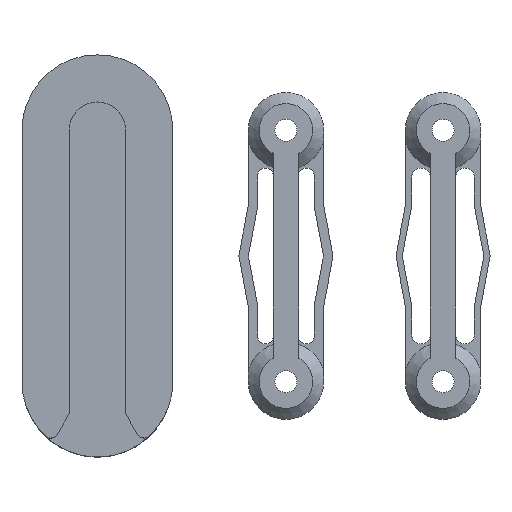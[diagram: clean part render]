
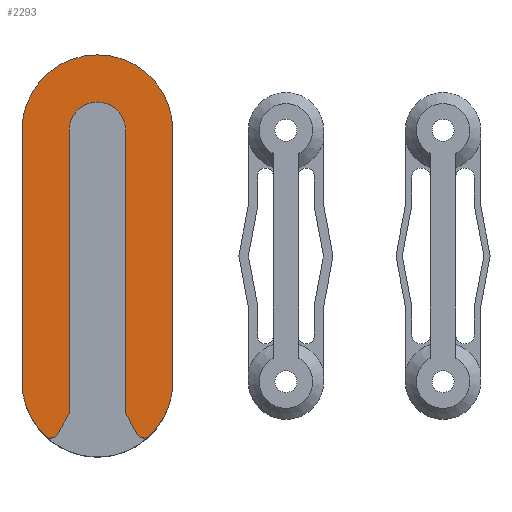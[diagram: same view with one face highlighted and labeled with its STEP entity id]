
A CAD part, top view. The second image highlights one B-rep face of the part: STEP entity #2293.
In plain terms, the highlighted planar face has unit normal (0, 0, 1).
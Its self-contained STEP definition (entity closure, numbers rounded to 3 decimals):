
#18=B_SPLINE_CURVE_WITH_KNOTS('',3,(#3712,#3713,#3714,#3715,#3716,#3717,
#3718,#3719,#3720,#3721,#3722,#3723,#3724),.UNSPECIFIED.,.F.,.F.,(4,3,3,
3,4),(0.,0.048,0.096,0.16,0.224),
 .UNSPECIFIED.);
#21=B_SPLINE_CURVE_WITH_KNOTS('',3,(#3762,#3763,#3764,#3765,#3766,#3767,
#3768,#3769,#3770,#3771,#3772,#3773,#3774),.UNSPECIFIED.,.F.,.F.,(4,3,3,
3,4),(0.,0.064,0.128,0.176,0.224),
 .UNSPECIFIED.);
#101=PLANE('',#2487);
#197=FACE_OUTER_BOUND('',#325,.T.);
#325=EDGE_LOOP('',(#1865,#1866,#1867,#1868,#1869,#1870,#1871,#1872,#1873,
#1874,#1875,#1876));
#502=LINE('',#3661,#720);
#512=LINE('',#3781,#730);
#514=LINE('',#3787,#732);
#515=LINE('',#3791,#733);
#516=LINE('',#3794,#734);
#517=LINE('',#3797,#735);
#720=VECTOR('',#2932,10.);
#730=VECTOR('',#2958,10.);
#732=VECTOR('',#2964,10.);
#733=VECTOR('',#2967,10.);
#734=VECTOR('',#2970,10.);
#735=VECTOR('',#2973,10.);
#881=CIRCLE('',#2488,12.);
#882=CIRCLE('',#2489,12.);
#883=CIRCLE('',#2490,12.);
#884=CIRCLE('',#2491,4.5);
#1053=VERTEX_POINT('',#3658);
#1054=VERTEX_POINT('',#3660);
#1055=VERTEX_POINT('',#3710);
#1056=VERTEX_POINT('',#3711);
#1057=VERTEX_POINT('',#3761);
#1058=VERTEX_POINT('',#3780);
#1059=VERTEX_POINT('',#3784);
#1060=VERTEX_POINT('',#3786);
#1061=VERTEX_POINT('',#3788);
#1062=VERTEX_POINT('',#3790);
#1063=VERTEX_POINT('',#3793);
#1064=VERTEX_POINT('',#3795);
#1332=EDGE_CURVE('',#1053,#1054,#502,.T.);
#1343=EDGE_CURVE('',#1055,#1056,#18,.T.);
#1346=EDGE_CURVE('',#1054,#1057,#21,.T.);
#1348=EDGE_CURVE('',#1056,#1058,#512,.T.);
#1350=EDGE_CURVE('',#1055,#1059,#881,.T.);
#1351=EDGE_CURVE('',#1059,#1060,#514,.T.);
#1352=EDGE_CURVE('',#1060,#1061,#882,.T.);
#1353=EDGE_CURVE('',#1061,#1062,#515,.T.);
#1354=EDGE_CURVE('',#1062,#1057,#883,.T.);
#1355=EDGE_CURVE('',#1053,#1063,#516,.T.);
#1356=EDGE_CURVE('',#1063,#1064,#884,.T.);
#1357=EDGE_CURVE('',#1064,#1058,#517,.T.);
#1865=ORIENTED_EDGE('',*,*,#1343,.F.);
#1866=ORIENTED_EDGE('',*,*,#1350,.T.);
#1867=ORIENTED_EDGE('',*,*,#1351,.T.);
#1868=ORIENTED_EDGE('',*,*,#1352,.T.);
#1869=ORIENTED_EDGE('',*,*,#1353,.T.);
#1870=ORIENTED_EDGE('',*,*,#1354,.T.);
#1871=ORIENTED_EDGE('',*,*,#1346,.F.);
#1872=ORIENTED_EDGE('',*,*,#1332,.F.);
#1873=ORIENTED_EDGE('',*,*,#1355,.T.);
#1874=ORIENTED_EDGE('',*,*,#1356,.T.);
#1875=ORIENTED_EDGE('',*,*,#1357,.T.);
#1876=ORIENTED_EDGE('',*,*,#1348,.F.);
#2293=ADVANCED_FACE('',(#197),#101,.T.);
#2487=AXIS2_PLACEMENT_3D('',#3783,#2960,#2961);
#2488=AXIS2_PLACEMENT_3D('',#3785,#2962,#2963);
#2489=AXIS2_PLACEMENT_3D('',#3789,#2965,#2966);
#2490=AXIS2_PLACEMENT_3D('',#3792,#2968,#2969);
#2491=AXIS2_PLACEMENT_3D('',#3796,#2971,#2972);
#2932=DIRECTION('',(-0.5,-0.866,0.));
#2958=DIRECTION('',(-0.5,0.866,0.));
#2960=DIRECTION('center_axis',(0.,0.,1.));
#2961=DIRECTION('ref_axis',(1.,0.,0.));
#2962=DIRECTION('center_axis',(0.,0.,1.));
#2963=DIRECTION('ref_axis',(1.,0.,0.));
#2964=DIRECTION('',(0.,1.,0.));
#2965=DIRECTION('center_axis',(0.,0.,1.));
#2966=DIRECTION('ref_axis',(1.,0.,0.));
#2967=DIRECTION('',(0.,-1.,0.));
#2968=DIRECTION('center_axis',(0.,0.,1.));
#2969=DIRECTION('ref_axis',(1.,0.,0.));
#2970=DIRECTION('',(0.,1.,0.));
#2971=DIRECTION('center_axis',(0.,0.,-1.));
#2972=DIRECTION('ref_axis',(1.,0.,0.));
#2973=DIRECTION('',(0.,-1.,0.));
#3658=CARTESIAN_POINT('',(1.5,-39.124,3.5));
#3660=CARTESIAN_POINT('',(-0.373,-42.369,3.5));
#3661=CARTESIAN_POINT('',(6.942,-29.698,3.5));
#3710=CARTESIAN_POINT('',(14.323,-42.645,3.5));
#3711=CARTESIAN_POINT('',(12.373,-42.369,3.5));
#3712=CARTESIAN_POINT('Ctrl Pts',(14.323,-42.645,3.5));
#3713=CARTESIAN_POINT('Ctrl Pts',(14.229,-42.735,3.5));
#3714=CARTESIAN_POINT('Ctrl Pts',(14.107,-42.819,3.5));
#3715=CARTESIAN_POINT('Ctrl Pts',(13.96,-42.879,3.5));
#3716=CARTESIAN_POINT('Ctrl Pts',(13.813,-42.939,3.5));
#3717=CARTESIAN_POINT('Ctrl Pts',(13.639,-42.975,3.5));
#3718=CARTESIAN_POINT('Ctrl Pts',(13.462,-42.973,3.5));
#3719=CARTESIAN_POINT('Ctrl Pts',(13.226,-42.971,3.5));
#3720=CARTESIAN_POINT('Ctrl Pts',(12.983,-42.901,3.5));
#3721=CARTESIAN_POINT('Ctrl Pts',(12.792,-42.788,3.5));
#3722=CARTESIAN_POINT('Ctrl Pts',(12.6,-42.675,3.5));
#3723=CARTESIAN_POINT('Ctrl Pts',(12.46,-42.519,3.5));
#3724=CARTESIAN_POINT('Ctrl Pts',(12.373,-42.369,3.5));
#3761=CARTESIAN_POINT('',(-2.323,-42.645,3.5));
#3762=CARTESIAN_POINT('Ctrl Pts',(-0.373,-42.369,
3.5));
#3763=CARTESIAN_POINT('Ctrl Pts',(-0.46,-42.519,
3.5));
#3764=CARTESIAN_POINT('Ctrl Pts',(-0.6,-42.675,3.5));
#3765=CARTESIAN_POINT('Ctrl Pts',(-0.792,-42.788,
3.5));
#3766=CARTESIAN_POINT('Ctrl Pts',(-0.983,-42.901,
3.5));
#3767=CARTESIAN_POINT('Ctrl Pts',(-1.226,-42.971,3.5));
#3768=CARTESIAN_POINT('Ctrl Pts',(-1.462,-42.973,3.5));
#3769=CARTESIAN_POINT('Ctrl Pts',(-1.639,-42.975,3.5));
#3770=CARTESIAN_POINT('Ctrl Pts',(-1.813,-42.939,3.5));
#3771=CARTESIAN_POINT('Ctrl Pts',(-1.96,-42.879,3.5));
#3772=CARTESIAN_POINT('Ctrl Pts',(-2.107,-42.819,3.5));
#3773=CARTESIAN_POINT('Ctrl Pts',(-2.229,-42.735,3.5));
#3774=CARTESIAN_POINT('Ctrl Pts',(-2.323,-42.645,3.5));
#3780=CARTESIAN_POINT('',(10.5,-39.124,3.5));
#3781=CARTESIAN_POINT('',(5.058,-29.698,3.5));
#3783=CARTESIAN_POINT('Origin',(6.,-13.562,3.5));
#3784=CARTESIAN_POINT('',(18.,-34.,3.5));
#3785=CARTESIAN_POINT('Origin',(6.,-34.,3.5));
#3786=CARTESIAN_POINT('',(18.,6.,3.5));
#3787=CARTESIAN_POINT('',(18.,6.,3.5));
#3788=CARTESIAN_POINT('',(-6.,6.,3.5));
#3789=CARTESIAN_POINT('Origin',(6.,6.,3.5));
#3790=CARTESIAN_POINT('',(-6.,-34.,3.5));
#3791=CARTESIAN_POINT('',(-6.,6.,3.5));
#3792=CARTESIAN_POINT('Origin',(6.,-34.,3.5));
#3793=CARTESIAN_POINT('',(1.5,6.,3.5));
#3794=CARTESIAN_POINT('',(1.5,6.,3.5));
#3795=CARTESIAN_POINT('',(10.5,6.,3.5));
#3796=CARTESIAN_POINT('Origin',(6.,6.,3.5));
#3797=CARTESIAN_POINT('',(10.5,6.,3.5));
